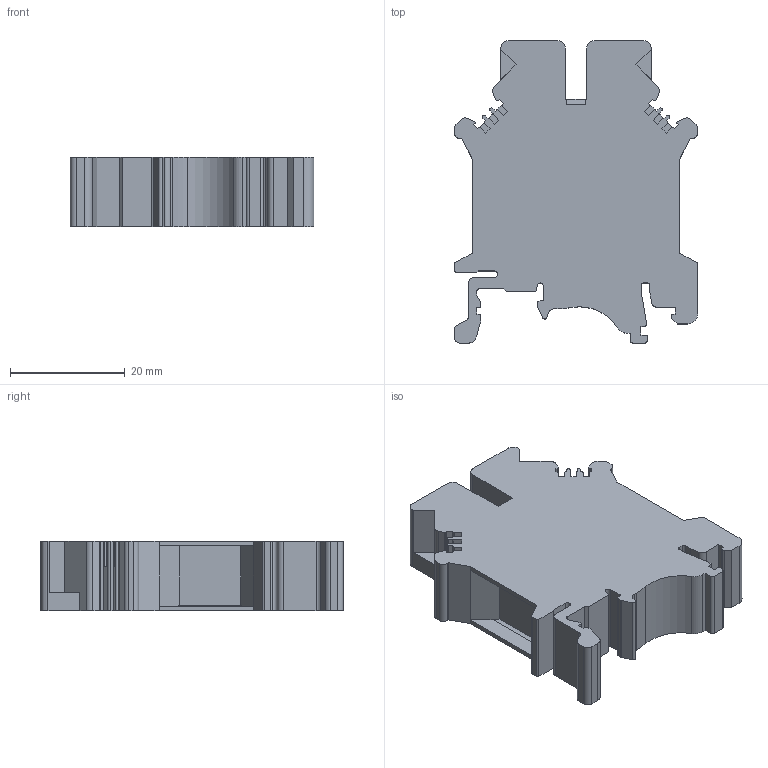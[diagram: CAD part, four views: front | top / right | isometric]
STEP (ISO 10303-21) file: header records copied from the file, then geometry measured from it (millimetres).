
FILE_DESCRIPTION((''),'2;1');
FILE_NAME('PRT0014','2020-05-30T',('Administrator'),(''),'PRO/ENGINEER BY PARAMETRIC TECHNOLOGY CORPORATION, 2014000','PRO/ENGINEER BY PARAMETRIC TECHNOLOGY CORPORATION, 2014000','');
FILE_SCHEMA(('CONFIG_CONTROL_DESIGN'));
Length unit declared in the file: millimetre
Products named in the file (1): PRT0014
Bounding box: 42.5 x 52.8 x 12.2 mm (x, y, z)
Volume: 18140.7 mm3; surface area: 7124.6 mm2
Topology: 1 solids, 1 shells, 217 faces, 635 edges, 422 vertices
Faces by surface type: plane 149, cylinder 68
Entity records: 7219 total; most frequent: CARTESIAN_POINT 1286, ORIENTED_EDGE 1270, DIRECTION 1205, EDGE_CURVE 635, VECTOR 491, LINE 491, VERTEX_POINT 422, AXIS2_PLACEMENT_3D 357
